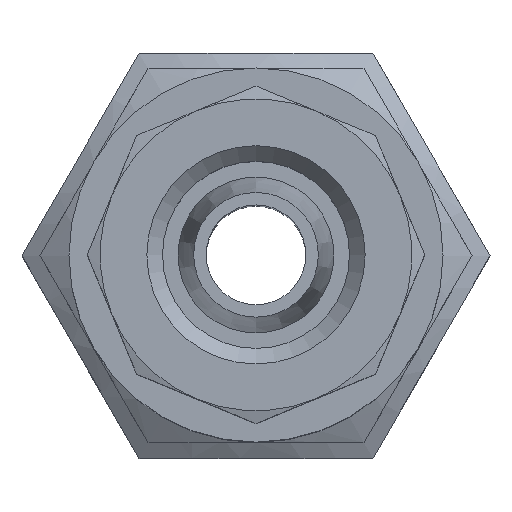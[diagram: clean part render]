
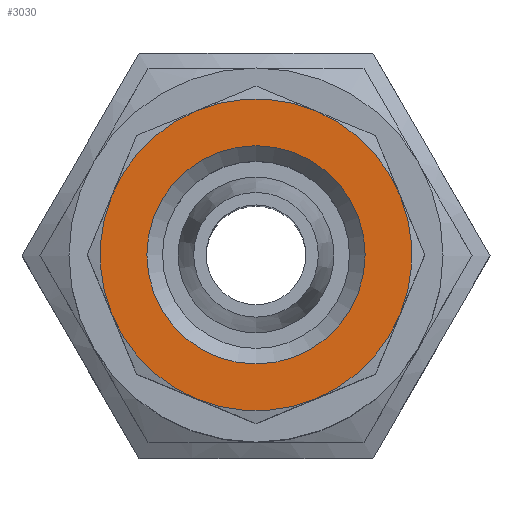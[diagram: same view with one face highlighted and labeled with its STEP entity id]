
A CAD part, top view. The second image highlights one B-rep face of the part: STEP entity #3030.
In plain terms, the highlighted planar face has unit normal (0, 0, 1) as drawn and (0, 1, 0) by its records, which use the part's own axes.
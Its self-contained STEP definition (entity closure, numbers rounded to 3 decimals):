
#1732=ORIENTED_EDGE('',*,*,#2064,.F.);
#1733=ORIENTED_EDGE('',*,*,#2065,.F.);
#1734=ORIENTED_EDGE('',*,*,#2066,.F.);
#1735=ORIENTED_EDGE('',*,*,#2067,.F.);
#1736=ORIENTED_EDGE('',*,*,#2068,.F.);
#1737=ORIENTED_EDGE('',*,*,#2069,.F.);
#1738=ORIENTED_EDGE('',*,*,#2070,.F.);
#1739=ORIENTED_EDGE('',*,*,#2071,.F.);
#1740=ORIENTED_EDGE('',*,*,#2063,.T.);
#1865=CIRCLE('',#2887,3.5);
#1866=CIRCLE('',#2889,5.);
#1867=CIRCLE('',#2890,5.);
#1868=CIRCLE('',#2891,5.);
#1869=CIRCLE('',#2892,5.);
#1870=CIRCLE('',#2893,5.);
#1871=CIRCLE('',#2894,5.);
#1872=CIRCLE('',#2895,5.);
#1873=CIRCLE('',#2896,5.);
#1944=VERTEX_POINT('',#3271);
#1945=VERTEX_POINT('',#3274);
#1946=VERTEX_POINT('',#3275);
#1947=VERTEX_POINT('',#3277);
#1948=VERTEX_POINT('',#3279);
#1949=VERTEX_POINT('',#3281);
#1950=VERTEX_POINT('',#3283);
#1951=VERTEX_POINT('',#3285);
#1952=VERTEX_POINT('',#3287);
#2063=EDGE_CURVE('',#1944,#1944,#1865,.T.);
#2064=EDGE_CURVE('',#1945,#1946,#1866,.T.);
#2065=EDGE_CURVE('',#1947,#1945,#1867,.T.);
#2066=EDGE_CURVE('',#1948,#1947,#1868,.T.);
#2067=EDGE_CURVE('',#1949,#1948,#1869,.T.);
#2068=EDGE_CURVE('',#1950,#1949,#1870,.T.);
#2069=EDGE_CURVE('',#1951,#1950,#1871,.T.);
#2070=EDGE_CURVE('',#1952,#1951,#1872,.T.);
#2071=EDGE_CURVE('',#1946,#1952,#1873,.T.);
#2195=EDGE_LOOP('',(#1732,#1733,#1734,#1735,#1736,#1737,#1738,#1739));
#2196=EDGE_LOOP('',(#1740));
#2311=FACE_BOUND('',#2195,.T.);
#2312=FACE_BOUND('',#2196,.T.);
#2625=DIRECTION('',(0.,-1.,0.));
#2626=DIRECTION('',(0.,0.,-3.5));
#2627=DIRECTION('',(0.,1.,0.));
#2628=DIRECTION('',(1.,0.,0.));
#2629=DIRECTION('',(0.,-1.,0.));
#2630=DIRECTION('',(0.,0.,5.));
#2631=DIRECTION('',(0.,-1.,0.));
#2632=DIRECTION('',(0.,0.,5.));
#2633=DIRECTION('',(0.,-1.,0.));
#2634=DIRECTION('',(0.,0.,5.));
#2635=DIRECTION('',(0.,-1.,0.));
#2636=DIRECTION('',(0.,0.,5.));
#2637=DIRECTION('',(0.,-1.,0.));
#2638=DIRECTION('',(0.,0.,5.));
#2639=DIRECTION('',(0.,-1.,0.));
#2640=DIRECTION('',(0.,0.,5.));
#2641=DIRECTION('',(0.,-1.,0.));
#2642=DIRECTION('',(0.,0.,5.));
#2643=DIRECTION('',(0.,-1.,0.));
#2644=DIRECTION('',(0.,0.,5.));
#2887=AXIS2_PLACEMENT_3D('',#3272,#2625,#2626);
#2888=AXIS2_PLACEMENT_3D('',#3273,#2627,#2628);
#2889=AXIS2_PLACEMENT_3D('',#3276,#2629,#2630);
#2890=AXIS2_PLACEMENT_3D('',#3278,#2631,#2632);
#2891=AXIS2_PLACEMENT_3D('',#3280,#2633,#2634);
#2892=AXIS2_PLACEMENT_3D('',#3282,#2635,#2636);
#2893=AXIS2_PLACEMENT_3D('',#3284,#2637,#2638);
#2894=AXIS2_PLACEMENT_3D('',#3286,#2639,#2640);
#2895=AXIS2_PLACEMENT_3D('',#3288,#2641,#2642);
#2896=AXIS2_PLACEMENT_3D('',#3289,#2643,#2644);
#2964=PLANE('',#2888);
#3030=ADVANCED_FACE('',(#2311,#2312),#2964,.T.);
#3271=CARTESIAN_POINT('',(0.,11.,-3.5));
#3272=CARTESIAN_POINT('',(0.,11.,0.));
#3273=CARTESIAN_POINT('',(1.913,11.,4.619));
#3274=CARTESIAN_POINT('',(-4.619,11.,-1.913));
#3275=CARTESIAN_POINT('',(-1.913,11.,-4.619));
#3276=CARTESIAN_POINT('',(0.,11.,0.));
#3277=CARTESIAN_POINT('',(-4.619,11.,1.913));
#3278=CARTESIAN_POINT('',(0.,11.,0.));
#3279=CARTESIAN_POINT('',(-1.913,11.,4.619));
#3280=CARTESIAN_POINT('',(0.,11.,0.));
#3281=CARTESIAN_POINT('',(1.913,11.,4.619));
#3282=CARTESIAN_POINT('',(0.,11.,0.));
#3283=CARTESIAN_POINT('',(4.619,11.,1.913));
#3284=CARTESIAN_POINT('',(0.,11.,0.));
#3285=CARTESIAN_POINT('',(4.619,11.,-1.913));
#3286=CARTESIAN_POINT('',(0.,11.,0.));
#3287=CARTESIAN_POINT('',(1.913,11.,-4.619));
#3288=CARTESIAN_POINT('',(0.,11.,0.));
#3289=CARTESIAN_POINT('',(0.,11.,0.));
